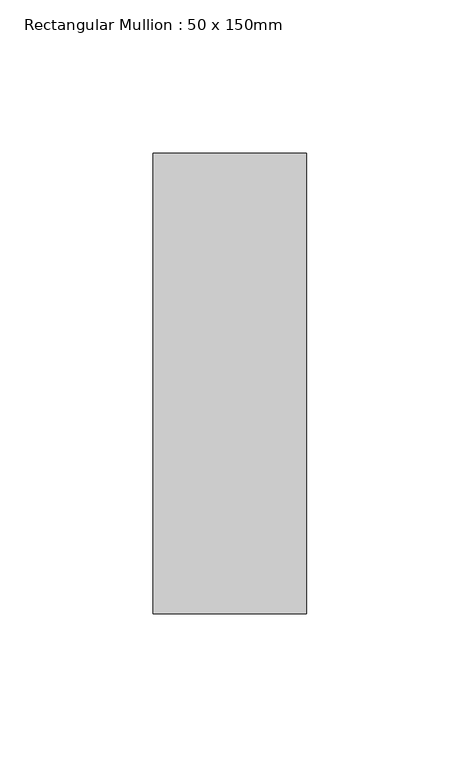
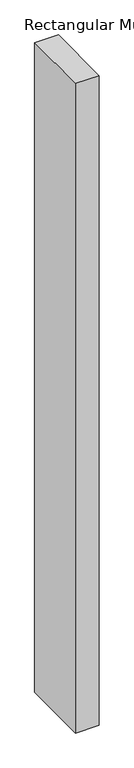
"""IFC4 building model written with IfcOpenShell, lengths in millimetres: member geometry, Rectangular Mullion : 50 x 150mm."""

from ifc_helpers import new_model, si_unit, frame, origin, place, context, project, spatial, polyline, outline, extrude, source, transform, mapped, element, save


def rectangular_mullion_50_x_150mm_18613413(model_context):
    return source(origin(), model_context, "Body", "SweptSolid", [
        extrude(outline(polyline([(0.0, 75.0), (0.0, -75.0), (-50.0, -75.0), (-50.0, 75.0), (0.0, 75.0)])), frame((0.0, 0.0, -1454.8186276), z_axis=(0.0, 0.0, 1.0), x_axis=(1.0, 0.0, 0.0)), (0.0, 0.0, 1.0), 1454.8186276),
    ])


if __name__ == "__main__":
    model = new_model("IFC4")
    model_context = context("Model", 3, world=origin())
    ifc_project = project(units=[si_unit("LENGTHUNIT", "METRE", prefix="MILLI")], contexts=[model_context])
    site = spatial("IfcSite", under=ifc_project)
    building = spatial("IfcBuilding", under=site)
    placement = place(None, origin())
    rectangular_mullion_50_x_150mm_shape = rectangular_mullion_50_x_150mm_18613413(model_context)
    element("IfcMember", 1, ObjectType="Rectangular Mullion : 50 x 150mm", at=placement, inside=building, context=model_context, shape_type="MappedRepresentation", body=[
        mapped(rectangular_mullion_50_x_150mm_shape, transform((0.0, 0.0, 0.0), x_axis=(1.0, 0.0, 0.0), y_axis=(0.0, 1.0, 0.0), z_axis=(0.0, 0.0, 1.0))),
    ])
    save(model, "model.ifc")
